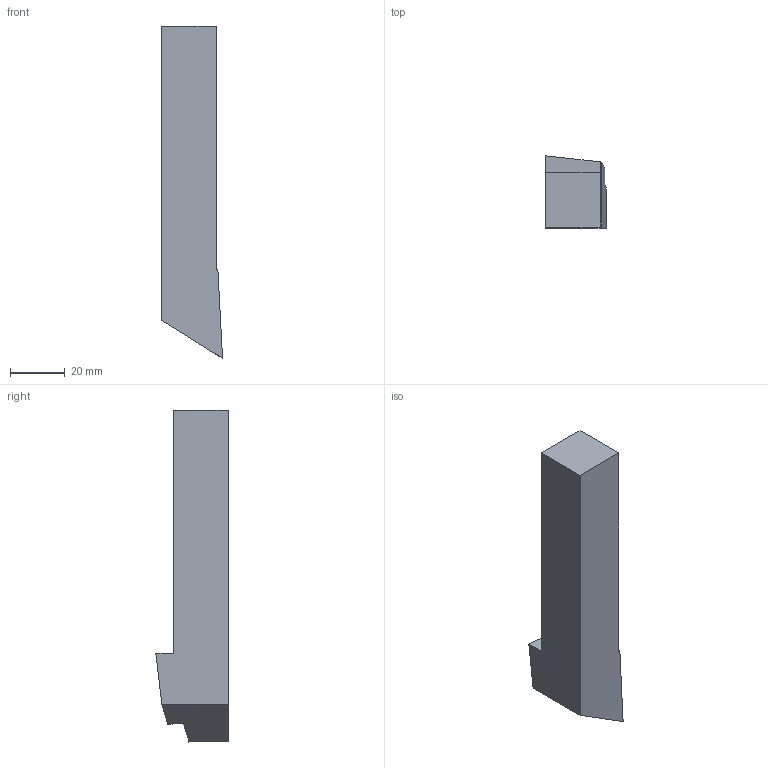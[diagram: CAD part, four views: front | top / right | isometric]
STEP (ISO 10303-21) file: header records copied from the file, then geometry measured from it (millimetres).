
FILE_DESCRIPTION(('no description'),'unknown implementation level');
FILE_NAME('solidkssgE17ehcHuKP__cUFM_zjez_0_1.STP',' ',('CIMSOURCE GmbH'),('CADClick - KiM GmbH - www.kimweb.de'),'unknown preprocess','ACIS','unknown authorization');
FILE_SCHEMA(('automotive_design'));
Length unit declared in the file: millimetre
Products named in the file (1): NOCUT
Bounding box: 22.28 x 26.42 x 121.31 mm (x, y, z)
Volume: 47542.7 mm3; surface area: 10500.3 mm2
Topology: 1 solids, 1 shells, 27 faces, 71 edges, 47 vertices
Faces by surface type: plane 19, cylinder 8
Entity records: 1681 total; most frequent: DIRECTION 151, CARTESIAN_POINT 150, STYLED_ITEM 146, PRESENTATION_STYLE_ASSIGNMENT 146, COLOUR_RGB 146, ORIENTED_EDGE 142, EDGE_CURVE 71, CURVE_STYLE 71
